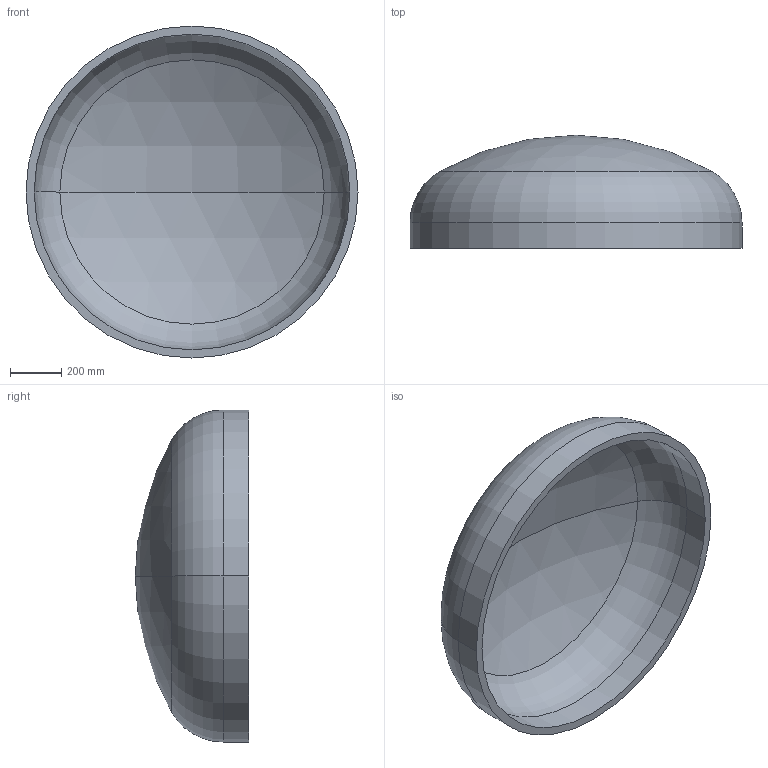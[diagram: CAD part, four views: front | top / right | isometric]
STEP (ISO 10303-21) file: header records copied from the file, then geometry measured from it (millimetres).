
FILE_DESCRIPTION (( 'STEP AP203' ), '1' );
FILE_NAME ('DIN 28013 Korbbogenform_-_Boden DIN 28013 - 1300 x 100 - I - s=32.step', '2016-07-01T09:48:48', ( '' ), ( '' ), 'SwSTEP 2.0', 'SolidWorks 2013', '' );
FILE_SCHEMA (( 'CONFIG_CONTROL_DESIGN' ));
Length unit declared in the file: millimetre
Products named in the file (1): DIN 28013 Korbbogenform_-_Boden DIN 28013 - 1300 x 100 - I - s=32
Bounding box: 1300 x 443.39 x 1300 mm (x, y, z)
Volume: 69692821.4 mm3; surface area: 4485418 mm2
Topology: 1 solids, 1 shells, 13 faces, 24 edges, 14 vertices
Faces by surface type: torus 4, cylinder 4, sphere 4, plane 1
Entity records: 407 total; most frequent: DIRECTION 72, CARTESIAN_POINT 52, ORIENTED_EDGE 48, AXIS2_PLACEMENT_3D 34, EDGE_CURVE 24, CIRCLE 20, VERTEX_POINT 14, EDGE_LOOP 14
